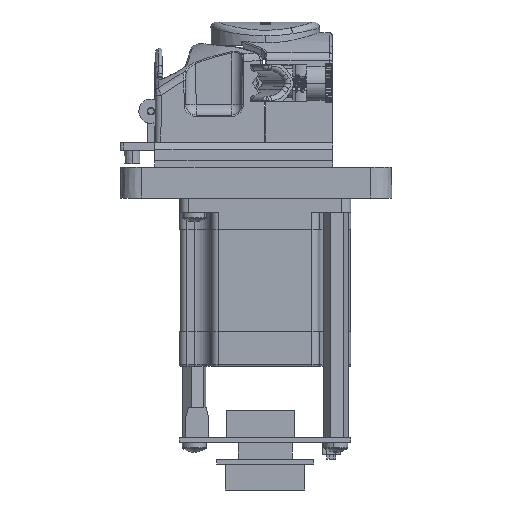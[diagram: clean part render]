
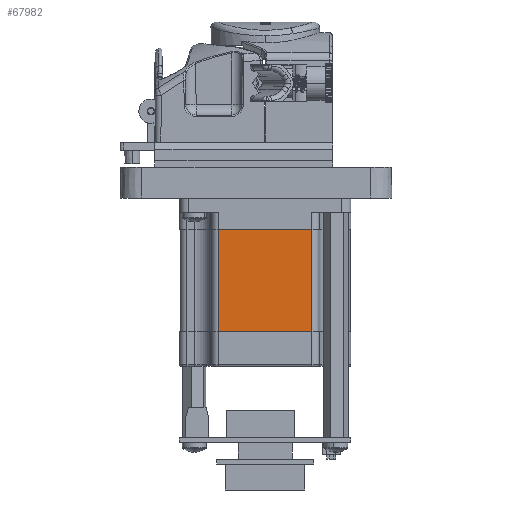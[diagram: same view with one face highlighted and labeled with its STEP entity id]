
A CAD part, left-side view. The second image highlights one B-rep face of the part: STEP entity #67982.
In plain terms, the highlighted planar face has unit normal (-1, 0, 0).
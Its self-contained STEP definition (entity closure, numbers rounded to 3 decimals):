
#92 = EDGE_CURVE ( 'NONE', #54117, #32822, #64399, .T. ) ;
#219 = CARTESIAN_POINT ( 'NONE',  ( -28.3, 15.57, 65.26 ) ) ;
#1828 = VERTEX_POINT ( 'NONE', #6106 ) ;
#5284 = FACE_OUTER_BOUND ( 'NONE', #36423, .T. ) ;
#6106 = CARTESIAN_POINT ( 'NONE',  ( -28.3, -15.57, -59.85 ) ) ;
#8549 = CARTESIAN_POINT ( 'NONE',  ( -28.3, -15.57, -59.85 ) ) ;
#8847 = CARTESIAN_POINT ( 'NONE',  ( -28.3, -15.57, -25.85 ) ) ;
#11764 = CARTESIAN_POINT ( 'NONE',  ( -28.3, -15.57, 65.26 ) ) ;
#17942 = VECTOR ( 'NONE', #47514, 1000. ) ;
#18356 = CARTESIAN_POINT ( 'NONE',  ( -28.3, -15.57, -25.85 ) ) ;
#19052 = DIRECTION ( 'NONE',  ( 0., 1., 0. ) ) ;
#22932 = ORIENTED_EDGE ( 'NONE', *, *, #92, .T. ) ;
#28148 = CARTESIAN_POINT ( 'NONE',  ( -28.3, -15.57, 65.26 ) ) ;
#28997 = EDGE_CURVE ( 'NONE', #1828, #64296, #67305, .T. ) ;
#31624 = VECTOR ( 'NONE', #48518, 1000. ) ;
#31972 = LINE ( 'NONE', #219, #17942 ) ;
#32822 = VERTEX_POINT ( 'NONE', #44628 ) ;
#33466 = DIRECTION ( 'NONE',  ( 0., 0., 1. ) ) ;
#36423 = EDGE_LOOP ( 'NONE', ( #22932, #61572, #41101, #56744 ) ) ;
#38818 = EDGE_CURVE ( 'NONE', #54117, #1828, #59644, .T. ) ;
#41014 = CARTESIAN_POINT ( 'NONE',  ( -28.3, 15.57, -59.85 ) ) ;
#41101 = ORIENTED_EDGE ( 'NONE', *, *, #28997, .F. ) ;
#44628 = CARTESIAN_POINT ( 'NONE',  ( -28.3, 15.57, -25.85 ) ) ;
#45480 = EDGE_CURVE ( 'NONE', #32822, #64296, #31972, .T. ) ;
#47514 = DIRECTION ( 'NONE',  ( 0., 0., -1. ) ) ;
#48518 = DIRECTION ( 'NONE',  ( 0., 0., -1. ) ) ;
#51996 = VECTOR ( 'NONE', #19052, 1000. ) ;
#53173 = VECTOR ( 'NONE', #61913, 1000. ) ;
#54117 = VERTEX_POINT ( 'NONE', #8847 ) ;
#54384 = PLANE ( 'NONE',  #59894 ) ;
#56744 = ORIENTED_EDGE ( 'NONE', *, *, #38818, .F. ) ;
#59644 = LINE ( 'NONE', #11764, #31624 ) ;
#59894 = AXIS2_PLACEMENT_3D ( 'NONE', #28148, #65058, #33466 ) ;
#61572 = ORIENTED_EDGE ( 'NONE', *, *, #45480, .T. ) ;
#61913 = DIRECTION ( 'NONE',  ( 0., 1., 0. ) ) ;
#64296 = VERTEX_POINT ( 'NONE', #41014 ) ;
#64399 = LINE ( 'NONE', #18356, #51996 ) ;
#65058 = DIRECTION ( 'NONE',  ( -1., 0., 0. ) ) ;
#67305 = LINE ( 'NONE', #8549, #53173 ) ;
#67982 = ADVANCED_FACE ( 'NONE', ( #5284 ), #54384, .T. ) ;
